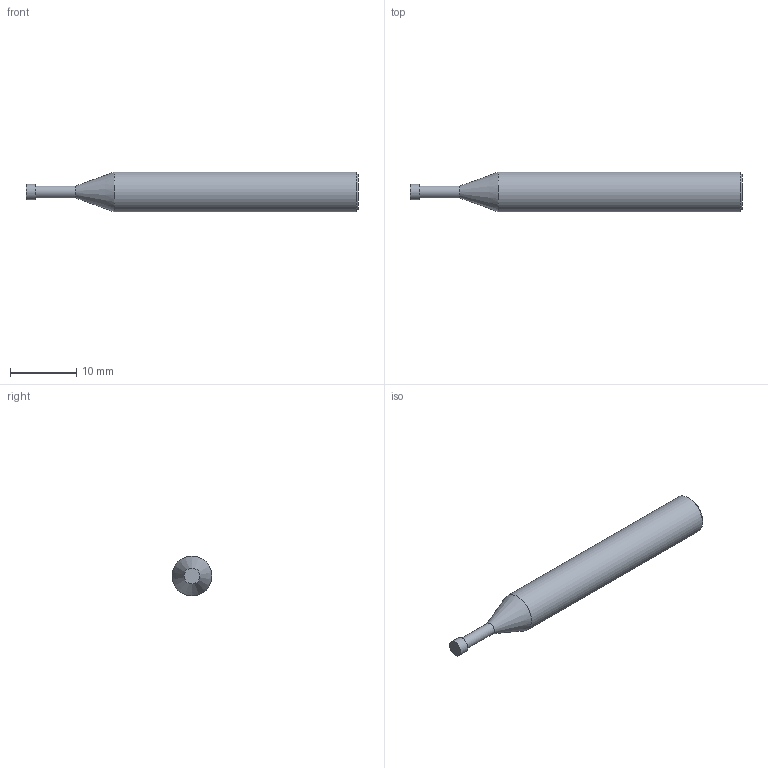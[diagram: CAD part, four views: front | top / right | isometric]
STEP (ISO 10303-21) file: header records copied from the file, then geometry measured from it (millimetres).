
FILE_DESCRIPTION(/* description */ (''),/* implementation_level */ '2;1');
FILE_NAME(/* name */ 'HSXDT-0.5-7.5 0650.stp',/* time_stamp */ '2026-02-24T08:37:07+08:00',/* author */ (''),/* organization */ (''),/* preprocessor_version */ 'ST-DEVELOPER v16',/* originating_system */ 'SIEMENS PLM Software NX 10.0',/* authorisation */ '');
FILE_SCHEMA (('CONFIG_CONTROL_DESIGN'));
Length unit declared in the file: millimetre
Products named in the file (1): HSXDT-0.5-7.5 0650_dxf
Bounding box: 50 x 6 x 6 mm (x, y, z)
Volume: 1135.3 mm3; surface area: 844.2 mm2
Topology: 1 solids, 1 shells, 8 faces, 12 edges, 7 vertices
Faces by surface type: plane 3, cylinder 3, cone 2
Full cylindrical faces by diameter (mm): 1.8 x1, 2.4 x1, 6 x1
Entity records: 238 total; most frequent: DIRECTION 32, CARTESIAN_POINT 23, AXIS2_PLACEMENT_3D 16, EDGE_LOOP 14, ORIENTED_EDGE 14, FACE_BOUND 12, ADVANCED_FACE 8, PERSON_AND_ORGANIZATION 7
